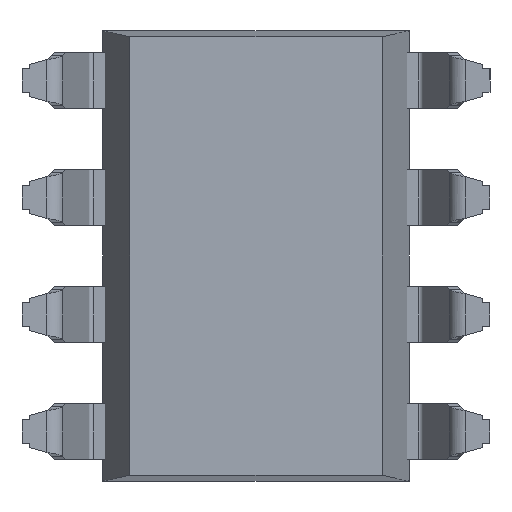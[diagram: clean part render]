
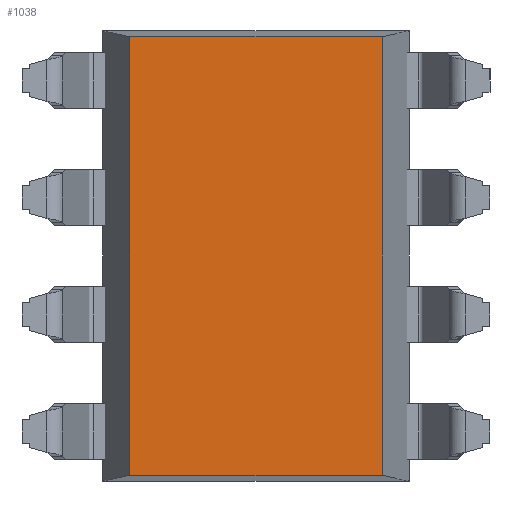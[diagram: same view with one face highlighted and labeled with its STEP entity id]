
A CAD part, front view. The second image highlights one B-rep face of the part: STEP entity #1038.
In plain terms, the highlighted planar face has unit normal (0, -1, 0).
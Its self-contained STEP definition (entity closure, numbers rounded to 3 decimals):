
#111 = CARTESIAN_POINT ( 'NONE',  ( -2.745, -1.778, -4.761 ) ) ;
#285 = ORIENTED_EDGE ( 'NONE', *, *, #2767, .T. ) ;
#479 = DIRECTION ( 'NONE',  ( 1., 0., 0. ) ) ;
#519 = FACE_OUTER_BOUND ( 'NONE', #6073, .T. ) ;
#633 = LINE ( 'NONE', #5447, #6295 ) ;
#654 = DIRECTION ( 'NONE',  ( 1., 0., 0. ) ) ;
#1038 = ADVANCED_FACE ( 'NONE', ( #519 ), #6372, .T. ) ;
#1815 = CARTESIAN_POINT ( 'NONE',  ( 2.745, -1.778, 4.761 ) ) ;
#2541 = ORIENTED_EDGE ( 'NONE', *, *, #3311, .F. ) ;
#2651 = VECTOR ( 'NONE', #5169, 1000. ) ;
#2657 = VECTOR ( 'NONE', #479, 1000. ) ;
#2767 = EDGE_CURVE ( 'NONE', #6390, #5499, #633, .T. ) ;
#2893 = DIRECTION ( 'NONE',  ( 0., 0., 1. ) ) ;
#3287 = DIRECTION ( 'NONE',  ( 0., 0., -1. ) ) ;
#3311 = EDGE_CURVE ( 'NONE', #4462, #5499, #4253, .T. ) ;
#3530 = EDGE_CURVE ( 'NONE', #3766, #4462, #5215, .T. ) ;
#3766 = VERTEX_POINT ( 'NONE', #111 ) ;
#3849 = CARTESIAN_POINT ( 'NONE',  ( 2.745, -1.778, -4.761 ) ) ;
#4121 = VECTOR ( 'NONE', #654, 1000. ) ;
#4253 = LINE ( 'NONE', #6649, #2657 ) ;
#4462 = VERTEX_POINT ( 'NONE', #5802 ) ;
#4483 = EDGE_CURVE ( 'NONE', #3766, #6390, #4763, .T. ) ;
#4719 = ORIENTED_EDGE ( 'NONE', *, *, #3530, .F. ) ;
#4763 = LINE ( 'NONE', #5252, #4121 ) ;
#4791 = AXIS2_PLACEMENT_3D ( 'NONE', #6395, #4859, #3287 ) ;
#4859 = DIRECTION ( 'NONE',  ( 0., -1., 0. ) ) ;
#5169 = DIRECTION ( 'NONE',  ( 0., 0., 1. ) ) ;
#5215 = LINE ( 'NONE', #6238, #2651 ) ;
#5252 = CARTESIAN_POINT ( 'NONE',  ( -3.322, -1.778, -4.761 ) ) ;
#5447 = CARTESIAN_POINT ( 'NONE',  ( 2.745, -1.778, -6.215 ) ) ;
#5499 = VERTEX_POINT ( 'NONE', #1815 ) ;
#5802 = CARTESIAN_POINT ( 'NONE',  ( -2.745, -1.778, 4.761 ) ) ;
#6073 = EDGE_LOOP ( 'NONE', ( #2541, #4719, #6075, #285 ) ) ;
#6075 = ORIENTED_EDGE ( 'NONE', *, *, #4483, .T. ) ;
#6238 = CARTESIAN_POINT ( 'NONE',  ( -2.745, -1.778, -6.215 ) ) ;
#6295 = VECTOR ( 'NONE', #2893, 1000. ) ;
#6372 = PLANE ( 'NONE',  #4791 ) ;
#6390 = VERTEX_POINT ( 'NONE', #3849 ) ;
#6395 = CARTESIAN_POINT ( 'NONE',  ( 0., -1.778, 0. ) ) ;
#6649 = CARTESIAN_POINT ( 'NONE',  ( -3.322, -1.778, 4.761 ) ) ;
